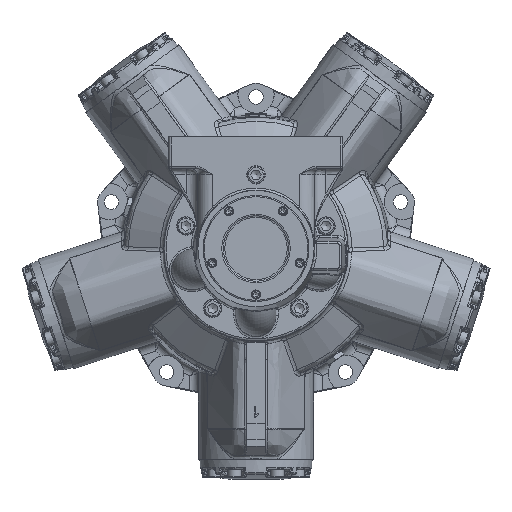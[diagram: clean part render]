
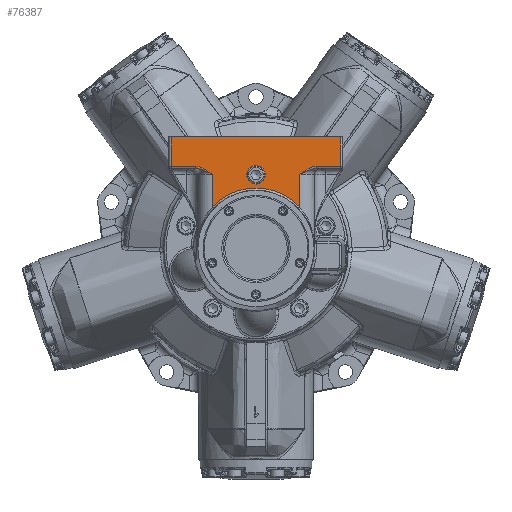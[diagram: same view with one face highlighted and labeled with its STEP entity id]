
A CAD part, top view. The second image highlights one B-rep face of the part: STEP entity #76387.
In plain terms, the highlighted planar face has unit normal (0, 0, 1).
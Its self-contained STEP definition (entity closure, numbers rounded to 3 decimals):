
#1455=FACE_BOUND('',#22566,.T.);
#4994=LINE('',#214527,#8299);
#5013=LINE('',#215469,#8318);
#5040=LINE('',#215774,#8345);
#5041=LINE('',#215776,#8346);
#5042=LINE('',#215778,#8347);
#5043=LINE('',#215806,#8348);
#5044=LINE('',#215807,#8349);
#8299=VECTOR('',#96881,10.);
#8318=VECTOR('',#96948,10.);
#8345=VECTOR('',#97075,10.);
#8346=VECTOR('',#97076,10.);
#8347=VECTOR('',#97077,10.);
#8348=VECTOR('',#97080,10.);
#8349=VECTOR('',#97081,10.);
#10618=PLANE('',#82258);
#13216=CIRCLE('',#82259,83.375);
#13217=CIRCLE('',#82260,12.7);
#17792=FACE_OUTER_BOUND('',#22565,.T.);
#22565=EDGE_LOOP('',(#64315,#64316,#64317,#64318,#64319,#64320,#64321,#64322,
#64323,#64324));
#22566=EDGE_LOOP('',(#64325));
#26443=B_SPLINE_CURVE_WITH_KNOTS('',3,(#215779,#215780,#215781,#215782,
#215783,#215784,#215785,#215786,#215787,#215788,#215789,#215790),
 .UNSPECIFIED.,.F.,.F.,(4,2,1,1,1,1,1,1,4),(-0.002,0.,0.504,
1.007,1.511,1.762,2.014,2.266,
2.518),.UNSPECIFIED.);
#26444=B_SPLINE_CURVE_WITH_KNOTS('',3,(#215793,#215794,#215795,#215796,
#215797,#215798,#215799,#215800,#215801,#215802,#215803,#215804),
 .UNSPECIFIED.,.F.,.F.,(4,1,1,1,1,1,1,2,4),(0.,0.504,0.755,
1.007,1.259,1.511,2.014,2.518,
2.519),.UNSPECIFIED.);
#32730=VERTEX_POINT('',#214524);
#32731=VERTEX_POINT('',#214526);
#32783=VERTEX_POINT('',#215455);
#32784=VERTEX_POINT('',#215468);
#32823=VERTEX_POINT('',#215772);
#32824=VERTEX_POINT('',#215773);
#32825=VERTEX_POINT('',#215775);
#32826=VERTEX_POINT('',#215777);
#32827=VERTEX_POINT('',#215792);
#32828=VERTEX_POINT('',#215805);
#32829=VERTEX_POINT('',#215808);
#43267=EDGE_CURVE('',#32730,#32731,#4994,.T.);
#43344=EDGE_CURVE('',#32783,#32784,#5013,.T.);
#43411=EDGE_CURVE('',#32823,#32824,#5040,.T.);
#43412=EDGE_CURVE('',#32825,#32824,#5041,.T.);
#43413=EDGE_CURVE('',#32826,#32825,#5042,.T.);
#43414=EDGE_CURVE('',#32784,#32826,#26443,.T.);
#43415=EDGE_CURVE('',#32731,#32783,#13216,.T.);
#43416=EDGE_CURVE('',#32827,#32730,#26444,.T.);
#43417=EDGE_CURVE('',#32828,#32827,#5043,.T.);
#43418=EDGE_CURVE('',#32823,#32828,#5044,.T.);
#43419=EDGE_CURVE('',#32829,#32829,#13217,.T.);
#64315=ORIENTED_EDGE('',*,*,#43411,.T.);
#64316=ORIENTED_EDGE('',*,*,#43412,.F.);
#64317=ORIENTED_EDGE('',*,*,#43413,.F.);
#64318=ORIENTED_EDGE('',*,*,#43414,.F.);
#64319=ORIENTED_EDGE('',*,*,#43344,.F.);
#64320=ORIENTED_EDGE('',*,*,#43415,.F.);
#64321=ORIENTED_EDGE('',*,*,#43267,.F.);
#64322=ORIENTED_EDGE('',*,*,#43416,.F.);
#64323=ORIENTED_EDGE('',*,*,#43417,.F.);
#64324=ORIENTED_EDGE('',*,*,#43418,.F.);
#64325=ORIENTED_EDGE('',*,*,#43419,.T.);
#76387=ADVANCED_FACE('',(#17792,#1455),#10618,.T.);
#82258=AXIS2_PLACEMENT_3D('',#215771,#97073,#97074);
#82259=AXIS2_PLACEMENT_3D('',#215791,#97078,#97079);
#82260=AXIS2_PLACEMENT_3D('',#215809,#97082,#97083);
#96881=DIRECTION('',(0.,-1.,0.));
#96948=DIRECTION('',(0.,1.,0.));
#97073=DIRECTION('center_axis',(0.,0.,
1.));
#97074=DIRECTION('ref_axis',(-1.,0.,0.));
#97075=DIRECTION('',(-1.,0.,0.));
#97076=DIRECTION('',(0.,1.,0.));
#97077=DIRECTION('',(-1.,0.,0.));
#97078=DIRECTION('center_axis',(0.,0.,
1.));
#97079=DIRECTION('ref_axis',(0.,1.,0.));
#97080=DIRECTION('',(-1.,0.,0.));
#97081=DIRECTION('',(0.,-1.,0.));
#97082=DIRECTION('center_axis',(0.,0.,
-1.));
#97083=DIRECTION('ref_axis',(-1.,0.,0.));
#214524=CARTESIAN_POINT('',(60.478,102.,419.41));
#214526=CARTESIAN_POINT('',(60.478,57.392,419.41));
#214527=CARTESIAN_POINT('',(60.478,134.5,419.41));
#215455=CARTESIAN_POINT('',(-60.478,57.392,419.41));
#215468=CARTESIAN_POINT('',(-60.478,102.,419.41));
#215469=CARTESIAN_POINT('',(-60.478,79.5,419.41));
#215771=CARTESIAN_POINT('Origin',(120.,159.,419.41));
#215772=CARTESIAN_POINT('',(117.,154.,419.41));
#215773=CARTESIAN_POINT('',(-117.,154.,419.41));
#215774=CARTESIAN_POINT('',(149.802,154.,419.41));
#215775=CARTESIAN_POINT('',(-117.,113.,419.41));
#215776=CARTESIAN_POINT('',(-117.,159.,419.41));
#215777=CARTESIAN_POINT('',(-82.727,113.,419.41));
#215778=CARTESIAN_POINT('',(60.,113.,419.41));
#215779=CARTESIAN_POINT('Ctrl Pts',(-60.478,102.,419.41));
#215780=CARTESIAN_POINT('Ctrl Pts',(-60.483,102.004,
419.41));
#215781=CARTESIAN_POINT('Ctrl Pts',(-60.488,102.008,
419.41));
#215782=CARTESIAN_POINT('Ctrl Pts',(-61.801,103.064,419.41));
#215783=CARTESIAN_POINT('Ctrl Pts',(-64.445,105.191,419.41));
#215784=CARTESIAN_POINT('Ctrl Pts',(-68.576,108.18,
419.41));
#215785=CARTESIAN_POINT('Ctrl Pts',(-72.226,110.283,419.41));
#215786=CARTESIAN_POINT('Ctrl Pts',(-75.303,111.601,
419.41));
#215787=CARTESIAN_POINT('Ctrl Pts',(-77.711,112.374,
419.41));
#215788=CARTESIAN_POINT('Ctrl Pts',(-80.205,112.879,
419.41));
#215789=CARTESIAN_POINT('Ctrl Pts',(-81.888,113.,419.41));
#215790=CARTESIAN_POINT('Ctrl Pts',(-82.727,113.,419.41));
#215791=CARTESIAN_POINT('Origin',(0.,0.,
419.41));
#215792=CARTESIAN_POINT('',(82.727,113.,419.41));
#215793=CARTESIAN_POINT('Ctrl Pts',(82.727,113.,419.41));
#215794=CARTESIAN_POINT('Ctrl Pts',(81.049,113.,419.41));
#215795=CARTESIAN_POINT('Ctrl Pts',(78.513,112.632,419.41));
#215796=CARTESIAN_POINT('Ctrl Pts',(75.303,111.6,419.41));
#215797=CARTESIAN_POINT('Ctrl Pts',(72.995,110.612,419.41));
#215798=CARTESIAN_POINT('Ctrl Pts',(70.765,109.441,419.41));
#215799=CARTESIAN_POINT('Ctrl Pts',(67.888,107.682,419.41));
#215800=CARTESIAN_POINT('Ctrl Pts',(64.444,105.19,419.41));
#215801=CARTESIAN_POINT('Ctrl Pts',(61.801,103.064,419.41));
#215802=CARTESIAN_POINT('Ctrl Pts',(60.488,102.008,419.41));
#215803=CARTESIAN_POINT('Ctrl Pts',(60.483,102.004,419.41));
#215804=CARTESIAN_POINT('Ctrl Pts',(60.478,102.,419.41));
#215805=CARTESIAN_POINT('',(117.,113.,419.41));
#215806=CARTESIAN_POINT('',(60.,113.,419.41));
#215807=CARTESIAN_POINT('',(117.,159.,419.41));
#215808=CARTESIAN_POINT('',(12.7,101.6,419.41));
#215809=CARTESIAN_POINT('Origin',(0.,101.6,419.41));
